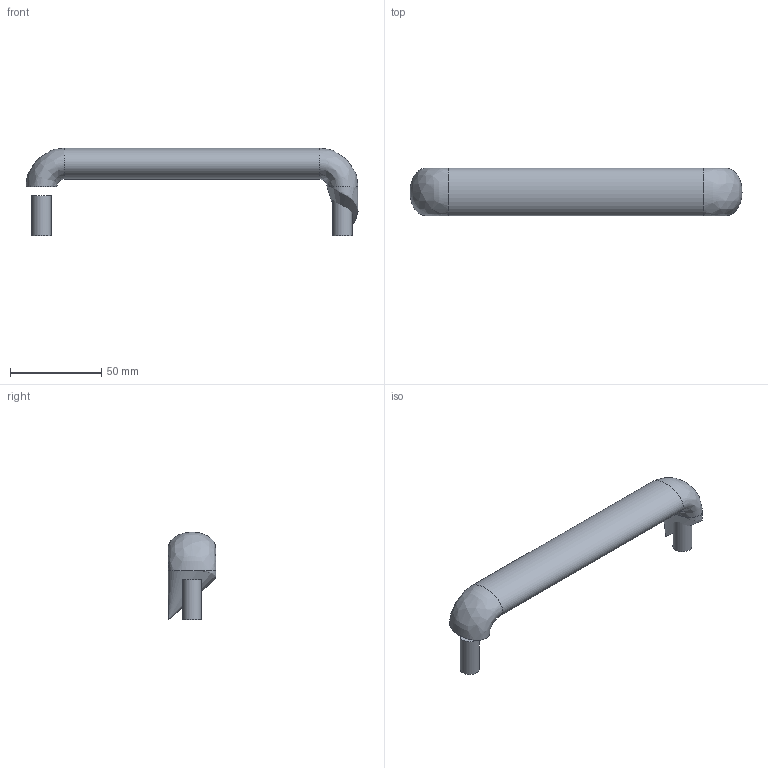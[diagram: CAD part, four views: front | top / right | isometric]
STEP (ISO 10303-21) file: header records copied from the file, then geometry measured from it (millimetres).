
FILE_DESCRIPTION( ('This file contains a STEP AP42 implementation' ,'as created by ZW3D STEP Interface translator.') ,'2;1' );
FILE_NAME( 'U.50_190.stp' ,'26 423.10 2 2', (''), ('ZWCAD Software Co.'), 'Version 1.0', 'ZW3D to STEP translator', '' );
FILE_SCHEMA(('AP242_MANAGED_MODEL_BASED_3D_ENGINEERING_MIM_LF { 1 0 10303 442 1 1 4 }'));
Length unit declared in the file: millimetre
Products named in the file (1): 0
Bounding box: 181.98 x 26 x 47.98 mm (x, y, z)
Volume: 74140.9 mm3; surface area: 18473.1 mm2
Topology: 5 solids, 5 shells, 25 faces, 38 edges, 23 vertices
Faces by surface type: plane 8, cylinder 8, bspline 5, cone 4
Full cylindrical faces by diameter (mm): 6.8 x4, 10.5 x4
Entity records: 711 total; most frequent: CARTESIAN_POINT 224, DIRECTION 97, ORIENTED_EDGE 78, AXIS2_PLACEMENT_3D 41, EDGE_CURVE 39, EDGE_LOOP 29, FACE_OUTER_BOUND 25, ADVANCED_FACE 25
